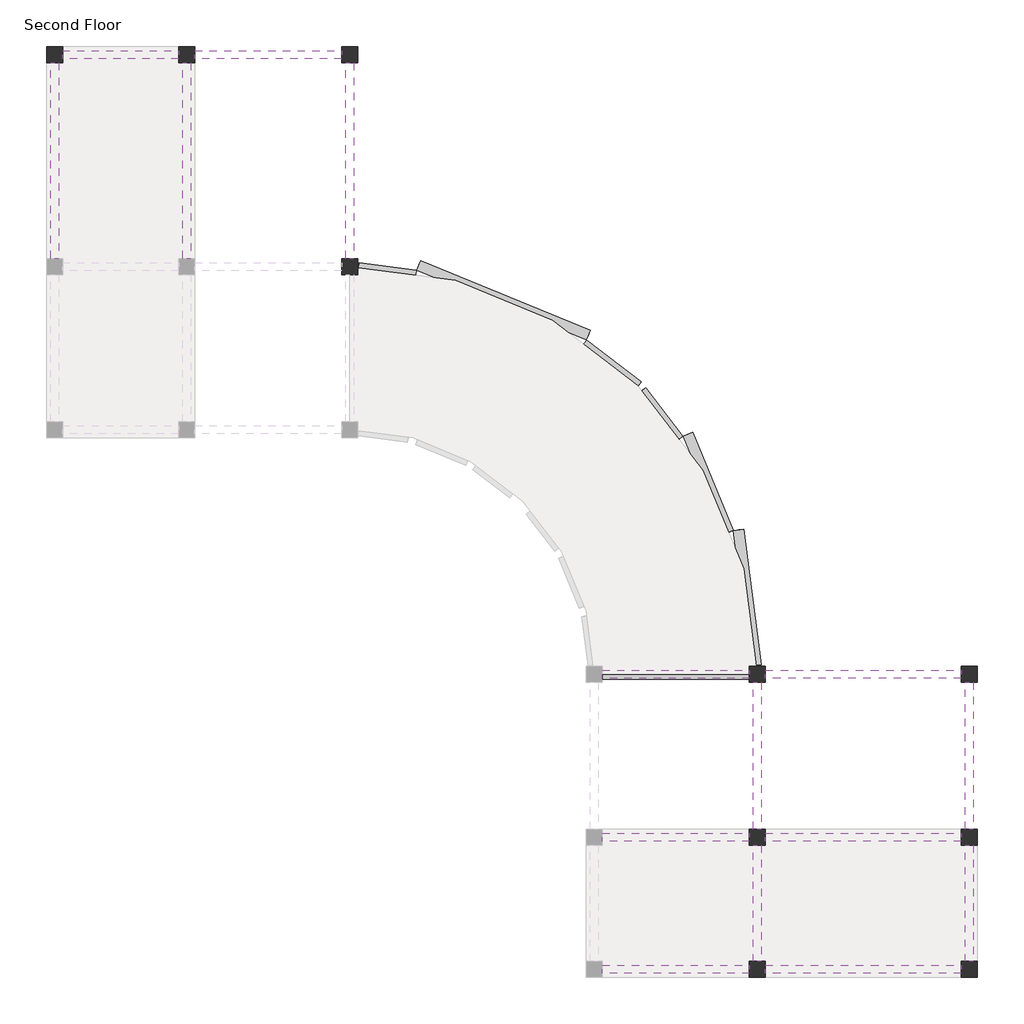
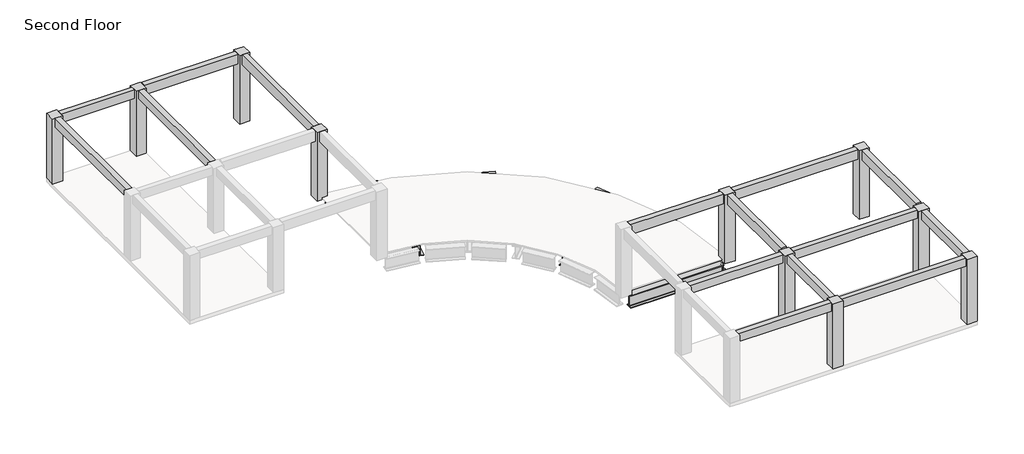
# One storey, part 2 of 2: 26 beams, 20 columns.
"""IFC4 building model written with IfcOpenShell, lengths in millimetres."""

import ifcopenshell
import ifcopenshell.guid

model = None  # the IFC model being written
_history = None  # IfcOwnerHistory: only IFC2X3 demands one
_inside = {}  # id of a spatial element -> (the spatial element, [elements in it])
_under = {}  # id of a project, library or spatial element -> (it, [spatial elements below it])
_declared = {}  # id of a project -> (the project, [libraries it declares])
_typed = {}  # id of a type object -> (the type object, [elements of that type])
_made_of = {}  # id of a material, layer set ... -> (it, [elements and type objects made of it])


def new_model(schema):
    """Start an empty IFC model of exactly this schema.

    Asked for "IFC4X3", IfcOpenShell would pick the latest addendum, in which some entities
    have other attributes; the version numbers below select the first issue.
    IFC2X3 requires an IfcOwnerHistory on every rooted entity: one is made here for all.
    """
    global model, _history
    if schema == "IFC4X3":
        model = ifcopenshell.file(schema_version=(4, 3, 0, 0))
    else:
        model = ifcopenshell.file(schema=schema)
    _inside.clear()
    _under.clear()
    _declared.clear()
    _typed.clear()
    _made_of.clear()
    _history = None
    if model.schema == "IFC2X3":
        org = make("IfcOrganization", Name="unknown")
        user = make(
            "IfcPersonAndOrganization",
            ThePerson=make("IfcPerson", FamilyName="unknown"),
            TheOrganization=org,
        )
        app = make(
            "IfcApplication",
            ApplicationDeveloper=org,
            Version="unknown",
            ApplicationFullName="unknown",
            ApplicationIdentifier="unknown",
        )
        _history = make(
            "IfcOwnerHistory",
            OwningUser=user,
            OwningApplication=app,
            ChangeAction="ADDED",
            CreationDate=0,
        )
    return model


def make(cls, **values):
    """One entity of the class cls with the attributes given. An attribute that is None is left unset."""
    return model.create_entity(
        cls, **{name: value for name, value in values.items() if value is not None}
    )


def rooted(cls, **values):
    """An entity with a GlobalId (a new one), such as an element, a storey or a relation."""
    return make(cls, GlobalId=ifcopenshell.guid.new(), OwnerHistory=_history, **values)


def si_unit(unit_type, name, prefix=None):
    """IfcSIUnit, for example si_unit("LENGTHUNIT", "METRE", prefix="MILLI")."""
    return make("IfcSIUnit", UnitType=unit_type, Prefix=prefix, Name=name)


def assignment(units):
    """IfcUnitAssignment: the units of a project."""
    return None if units is None else make("IfcUnitAssignment", Units=units)


def point(xyz):
    """IfcCartesianPoint."""
    return None if xyz is None else make("IfcCartesianPoint", Coordinates=xyz)


def direction(xyz):
    """IfcDirection."""
    return None if xyz is None else make("IfcDirection", DirectionRatios=xyz)


def frame(location, z_axis=None, x_axis=None):
    """IfcAxis2Placement3D, a coordinate frame: its origin and axes. An axis left out is left unset."""
    return make(
        "IfcAxis2Placement3D",
        Location=point(location),
        Axis=direction(z_axis),
        RefDirection=direction(x_axis),
    )


def frame_2d(location, x_axis=None):
    """IfcAxis2Placement2D, a coordinate frame in the plane: its origin and x axis."""
    return make(
        "IfcAxis2Placement2D", Location=point(location), RefDirection=direction(x_axis)
    )


def origin():
    """The frame at (0, 0, 0) with its axes left unset."""
    return frame((0.0, 0.0, 0.0))


def place(relative_to, where):
    """IfcLocalPlacement: puts the frame where relative to a parent placement (None: the world)."""
    return make(
        "IfcLocalPlacement", PlacementRelTo=relative_to, RelativePlacement=where
    )


def context(
    kind, dimensions, precision=None, world=None, true_north=None, identifier=None
):
    """IfcGeometricRepresentationContext, for example the 3D "Model" context."""
    return make(
        "IfcGeometricRepresentationContext",
        ContextIdentifier=identifier,
        ContextType=kind,
        CoordinateSpaceDimension=dimensions,
        Precision=precision,
        WorldCoordinateSystem=world,
        TrueNorth=true_north,
    )


def project(units=None, contexts=None):
    """IfcProject with its units and contexts."""
    return rooted(
        "IfcProject",
        Name="project",
        RepresentationContexts=contexts,
        UnitsInContext=assignment(units),
    )


def spatial(cls, under=None, at=None, **own):
    """A site, building, storey or space (cls), placed at a placement, below another one or the project."""
    s = rooted(cls, ObjectPlacement=at, **own)
    if under is not None:
        _under.setdefault(under.id(), (under, []))[1].append(s)
    return s


def polyline(points):
    """IfcPolyline through the points."""
    return make("IfcPolyline", Points=[point(p) for p in points])


def circle_curve(where, radius):
    """IfcCircle in the frame where."""
    return make("IfcCircle", Position=where, Radius=radius)


def trimmed(basis, trim1, trim2, sense, master):
    """IfcTrimmedCurve: the piece of a basis curve between two trims."""
    return make(
        "IfcTrimmedCurve",
        BasisCurve=basis,
        Trim1=trim1,
        Trim2=trim2,
        SenseAgreement=sense,
        MasterRepresentation=master,
    )


def segment(curve, same_sense, transition):
    """IfcCompositeCurveSegment."""
    return make(
        "IfcCompositeCurveSegment",
        Transition=transition,
        SameSense=same_sense,
        ParentCurve=curve,
    )


def composite_curve(segments, self_intersect=None):
    """IfcCompositeCurve: segments joined end to end."""
    return make("IfcCompositeCurve", Segments=segments, SelfIntersect=self_intersect)


def outline(outer, holes=None, kind="AREA"):
    """IfcArbitraryClosedProfileDef: a profile drawn as a closed curve; with holes, ...WithVoids."""
    if holes is None:
        return make("IfcArbitraryClosedProfileDef", ProfileType=kind, OuterCurve=outer)
    return make(
        "IfcArbitraryProfileDefWithVoids",
        ProfileType=kind,
        OuterCurve=outer,
        InnerCurves=holes,
    )


def extrude(swept, where, along, depth):
    """IfcExtrudedAreaSolid: the profile swept, set in the frame where, extruded along a direction by depth."""
    return make(
        "IfcExtrudedAreaSolid",
        SweptArea=swept,
        Position=where,
        ExtrudedDirection=direction(along),
        Depth=depth,
    )


def faces_of(points, faces, orient=None, outer=None):
    """IfcFace entities. A face is a list of loops; a loop is a list of indices into points, from 0.

    orient and outer hold one flag for each loop. By default every Orientation is true, the
    first loop of a face is its IfcFaceOuterBound and the others are IfcFaceBound.
    """
    made = []
    for i, loops in enumerate(faces):
        bounds = []
        for j, loop in enumerate(loops):
            is_outer = j == 0 if outer is None else outer[i][j]
            bounds.append(
                make(
                    "IfcFaceOuterBound" if is_outer else "IfcFaceBound",
                    Bound=make("IfcPolyLoop", Polygon=[points[k] for k in loop]),
                    Orientation=True if orient is None else orient[i][j],
                )
            )
        made.append(make("IfcFace", Bounds=bounds))
    return made


def faceted_brep(points, faces, orient=None, outer=None, voids=None):
    """IfcFacetedBrep: a solid bounded by flat faces; with voids (closed shells), ...WithVoids."""
    shared = [point(p) for p in points]
    hull = make("IfcClosedShell", CfsFaces=faces_of(shared, faces, orient, outer))
    if voids is None:
        return make("IfcFacetedBrep", Outer=hull)
    return make(
        "IfcFacetedBrepWithVoids",
        Outer=hull,
        Voids=[
            make(cls, CfsFaces=faces_of(shared, fs, o, b)) for cls, fs, o, b in voids
        ],
    )


def shape(context_of_items, identifier, shape_type, items):
    """IfcShapeRepresentation: the items that make up one representation, for example the "Body"."""
    return make(
        "IfcShapeRepresentation",
        ContextOfItems=context_of_items,
        RepresentationIdentifier=identifier,
        RepresentationType=shape_type,
        Items=items,
    )


def source(mapping_origin, context_of_items, identifier, shape_type, items):
    """IfcRepresentationMap: a shape defined once, which mapped items show again and again."""
    return make(
        "IfcRepresentationMap",
        MappingOrigin=mapping_origin,
        MappedRepresentation=shape(context_of_items, identifier, shape_type, items),
    )


def transform(
    local_origin,
    x_axis=None,
    y_axis=None,
    z_axis=None,
    scale=None,
    scale2=None,
    scale3=None,
    uniform=True,
):
    """IfcCartesianTransformationOperator3D, or its non-uniform kind. x_axis, y_axis, z_axis: its Axis1, 2, 3."""
    if uniform:
        return make(
            "IfcCartesianTransformationOperator3D",
            Axis1=direction(x_axis),
            Axis2=direction(y_axis),
            LocalOrigin=point(local_origin),
            Scale=scale,
            Axis3=direction(z_axis),
        )
    return make(
        "IfcCartesianTransformationOperator3DnonUniform",
        Axis1=direction(x_axis),
        Axis2=direction(y_axis),
        LocalOrigin=point(local_origin),
        Scale=scale,
        Axis3=direction(z_axis),
        Scale2=scale2,
        Scale3=scale3,
    )


def mapped(mapping_source, mapping_target):
    """IfcMappedItem: shows the shape of a source again, moved by a transform."""
    return make(
        "IfcMappedItem", MappingSource=mapping_source, MappingTarget=mapping_target
    )


def made_of(thing, what):
    """Note that an element or type object is made of a material, layer set ...; save() writes the relation."""
    if what is not None:
        _made_of.setdefault(what.id(), (what, []))[1].append(thing)
    return thing


def element(
    cls,
    number,
    at=None,
    inside=None,
    cuts=None,
    type_object=None,
    material=None,
    context=None,
    identifier="Body",
    shape_type=None,
    held_by="IfcProductDefinitionShape",
    body=None,
    shapes=None,
    **own,
):
    """One element of the class cls, such as IfcWall. Its Tag is "e" and its number.

    at: its placement. inside: the storey or other place that contains it. cuts: it is an
    opening in that element (IfcRelVoidsElement). A single representation is given by context,
    identifier, shape_type and body (its items); several are given by shapes. held_by: the class
    of the entity that holds the representations. save() writes the other relations.
    """
    e = rooted(cls, Tag="e%d" % number, ObjectPlacement=at, **own)
    if body is not None:
        shapes = [shape(context, identifier, shape_type, body)]
    if shapes is not None:
        e.Representation = make(held_by, Representations=shapes)
    if inside is not None:
        _inside.setdefault(inside.id(), (inside, []))[1].append(e)
    if cuts is not None:
        rooted(
            "IfcRelVoidsElement", RelatingBuildingElement=cuts, RelatedOpeningElement=e
        )
    if type_object is not None:
        _typed.setdefault(type_object.id(), (type_object, []))[1].append(e)
    return made_of(e, material)


def aggregate(whole, parts):
    """IfcRelAggregates: a whole, such as a stair, and the parts it consists of."""
    return rooted("IfcRelAggregates", RelatingObject=whole, RelatedObjects=parts)


def save(model, path):
    """Write the relations noted so far, then the file.

    IfcRelAggregates (storeys below a building ...), IfcRelContainedInSpatialStructure (elements
    in a storey), IfcRelDefinesByType, IfcRelAssociatesMaterial and IfcRelDeclares: one each for
    every whole, place, type object, material and project.
    """
    for whole, parts in _under.values():
        aggregate(whole, parts)
    for where, things in _inside.values():
        rooted(
            "IfcRelContainedInSpatialStructure",
            RelatedElements=things,
            RelatingStructure=where,
        )
    for kind, things in _typed.values():
        rooted("IfcRelDefinesByType", RelatedObjects=things, RelatingType=kind)
    for what, things in _made_of.values():
        rooted("IfcRelAssociatesMaterial", RelatedObjects=things, RelatingMaterial=what)
    for by, libraries in _declared.values():
        rooted("IfcRelDeclares", RelatingContext=by, RelatedDefinitions=libraries)
    model.write(path)


def w760x350_97f56e91(model_context):
    return source(origin(), model_context, "Body", "SweptSolid", [
        extrude(outline(composite_curve([segment(polyline([(192.0, -359.4), (192.0, -397.5), (-192.0, -397.5), (-192.0, -359.4), (-32.75, -359.4)]), True, "CONTINUOUS"), segment(trimmed(circle_curve(frame_2d((-32.75, -337.2)), 22.2), [point((-32.75, -359.4))], [point((-10.55, -337.2))], True, "CARTESIAN"), True, "CONTINUOUS"), segment(polyline([(-10.55, -337.2), (-10.55, 337.2)]), True, "CONTINUOUS"), segment(trimmed(circle_curve(frame_2d((-32.75, 337.2)), 22.2), [point((-10.55, 337.2))], [point((-32.75, 359.4))], True, "CARTESIAN"), True, "CONTINUOUS"), segment(polyline([(-32.75, 359.4), (-192.0, 359.4), (-192.0, 397.5), (192.0, 397.5), (192.0, 359.4), (32.75, 359.4)]), True, "CONTINUOUS"), segment(trimmed(circle_curve(frame_2d((32.75, 337.2)), 22.2), [point((32.75, 359.4))], [point((10.55, 337.2))], True, "CARTESIAN"), True, "CONTINUOUS"), segment(polyline([(10.55, 337.2), (10.55, -337.2)]), True, "CONTINUOUS"), segment(trimmed(circle_curve(frame_2d((32.75, -337.2)), 22.2), [point((10.55, -337.2))], [point((32.75, -359.4))], True, "CARTESIAN"), True, "CONTINUOUS"), segment(polyline([(32.75, -359.4), (192.0, -359.4)]), True, "CONTINUOUS")], self_intersect=False)), frame((-3447.6039591, 0.0, 0.0), z_axis=(1.0, 0.0, 0.0), x_axis=(0.0, 1.0, 0.0)), (0.0, 0.0, 1.0), 3965.7383389),
    ])


def w760x350_76114712(model_context):
    return source(origin(), model_context, "Body", "SweptSolid", [
        extrude(outline(composite_curve([segment(polyline([(192.0, -359.4), (192.0, -397.5), (-192.0, -397.5), (-192.0, -359.4), (-32.75, -359.4)]), True, "CONTINUOUS"), segment(trimmed(circle_curve(frame_2d((-32.75, -337.2)), 22.2), [point((-32.75, -359.4))], [point((-10.55, -337.2))], True, "CARTESIAN"), True, "CONTINUOUS"), segment(polyline([(-10.55, -337.2), (-10.55, 337.2)]), True, "CONTINUOUS"), segment(trimmed(circle_curve(frame_2d((-32.75, 337.2)), 22.2), [point((-10.55, 337.2))], [point((-32.75, 359.4))], True, "CARTESIAN"), True, "CONTINUOUS"), segment(polyline([(-32.75, 359.4), (-192.0, 359.4), (-192.0, 397.5), (192.0, 397.5), (192.0, 359.4), (32.75, 359.4)]), True, "CONTINUOUS"), segment(trimmed(circle_curve(frame_2d((32.75, 337.2)), 22.2), [point((32.75, 359.4))], [point((10.55, 337.2))], True, "CARTESIAN"), True, "CONTINUOUS"), segment(polyline([(10.55, 337.2), (10.55, -337.2)]), True, "CONTINUOUS"), segment(trimmed(circle_curve(frame_2d((32.75, -337.2)), 22.2), [point((10.55, -337.2))], [point((32.75, -359.4))], True, "CARTESIAN"), True, "CONTINUOUS"), segment(polyline([(32.75, -359.4), (192.0, -359.4)]), True, "CONTINUOUS")], self_intersect=False)), frame((-1757.5851295, 0.0, 0.0), z_axis=(1.0, 0.0, 0.0), x_axis=(0.0, 1.0, 0.0)), (0.0, 0.0, 1.0), 2275.7195093),
    ])


def w760x350_95a3d9c9(model_context):
    return source(origin(), model_context, "Body", "SweptSolid", [
        extrude(outline(composite_curve([segment(polyline([(192.0, -359.4), (192.0, -397.5), (-192.0, -397.5), (-192.0, -359.4), (-32.75, -359.4)]), True, "CONTINUOUS"), segment(trimmed(circle_curve(frame_2d((-32.75, -337.2)), 22.2), [point((-32.75, -359.4))], [point((-10.55, -337.2))], True, "CARTESIAN"), True, "CONTINUOUS"), segment(polyline([(-10.55, -337.2), (-10.55, 337.2)]), True, "CONTINUOUS"), segment(trimmed(circle_curve(frame_2d((-32.75, 337.2)), 22.2), [point((-10.55, 337.2))], [point((-32.75, 359.4))], True, "CARTESIAN"), True, "CONTINUOUS"), segment(polyline([(-32.75, 359.4), (-192.0, 359.4), (-192.0, 397.5), (192.0, 397.5), (192.0, 359.4), (32.75, 359.4)]), True, "CONTINUOUS"), segment(trimmed(circle_curve(frame_2d((32.75, 337.2)), 22.2), [point((32.75, 359.4))], [point((10.55, 337.2))], True, "CARTESIAN"), True, "CONTINUOUS"), segment(polyline([(10.55, 337.2), (10.55, -337.2)]), True, "CONTINUOUS"), segment(trimmed(circle_curve(frame_2d((32.75, -337.2)), 22.2), [point((10.55, -337.2))], [point((32.75, -359.4))], True, "CARTESIAN"), True, "CONTINUOUS"), segment(polyline([(32.75, -359.4), (192.0, -359.4)]), True, "CONTINUOUS")], self_intersect=False)), frame((-1648.6532017, 0.0, 0.0), z_axis=(1.0, 0.0, 0.0), x_axis=(0.0, 1.0, 0.0)), (0.0, 0.0, 1.0), 2147.5829882),
    ])


def w760x350_c93c339d(model_context):
    return source(origin(), model_context, "Body", "SweptSolid", [
        extrude(outline(composite_curve([segment(polyline([(192.0, -359.4), (192.0, -397.5), (-192.0, -397.5), (-192.0, -359.4), (-32.75, -359.4)]), True, "CONTINUOUS"), segment(trimmed(circle_curve(frame_2d((-32.75, -337.2)), 22.2), [point((-32.75, -359.4))], [point((-10.55, -337.2))], True, "CARTESIAN"), True, "CONTINUOUS"), segment(polyline([(-10.55, -337.2), (-10.55, 337.2)]), True, "CONTINUOUS"), segment(trimmed(circle_curve(frame_2d((-32.75, 337.2)), 22.2), [point((-10.55, 337.2))], [point((-32.75, 359.4))], True, "CARTESIAN"), True, "CONTINUOUS"), segment(polyline([(-32.75, 359.4), (-192.0, 359.4), (-192.0, 397.5), (192.0, 397.5), (192.0, 359.4), (32.75, 359.4)]), True, "CONTINUOUS"), segment(trimmed(circle_curve(frame_2d((32.75, 337.2)), 22.2), [point((32.75, 359.4))], [point((10.55, 337.2))], True, "CARTESIAN"), True, "CONTINUOUS"), segment(polyline([(10.55, 337.2), (10.55, -337.2)]), True, "CONTINUOUS"), segment(trimmed(circle_curve(frame_2d((32.75, -337.2)), 22.2), [point((10.55, -337.2))], [point((32.75, -359.4))], True, "CARTESIAN"), True, "CONTINUOUS"), segment(polyline([(32.75, -359.4), (192.0, -359.4)]), True, "CONTINUOUS")], self_intersect=False)), frame((-3436.6555898, 0.0, 0.0), z_axis=(1.0, 0.0, 0.0), x_axis=(0.0, 1.0, 0.0)), (0.0, 0.0, 1.0), 6854.1065863),
    ])


def w760x350_c870c244(model_context):
    return source(origin(), model_context, "Body", "SweptSolid", [
        extrude(outline(composite_curve([segment(polyline([(192.0, -359.4), (192.0, -397.5), (-192.0, -397.5), (-192.0, -359.4), (-32.75, -359.4)]), True, "CONTINUOUS"), segment(trimmed(circle_curve(frame_2d((-32.75, -337.2)), 22.2), [point((-32.75, -359.4))], [point((-10.55, -337.2))], True, "CARTESIAN"), True, "CONTINUOUS"), segment(polyline([(-10.55, -337.2), (-10.55, 337.2)]), True, "CONTINUOUS"), segment(trimmed(circle_curve(frame_2d((-32.75, 337.2)), 22.2), [point((-10.55, 337.2))], [point((-32.75, 359.4))], True, "CARTESIAN"), True, "CONTINUOUS"), segment(polyline([(-32.75, 359.4), (-192.0, 359.4), (-192.0, 397.5), (192.0, 397.5), (192.0, 359.4), (32.75, 359.4)]), True, "CONTINUOUS"), segment(trimmed(circle_curve(frame_2d((32.75, 337.2)), 22.2), [point((32.75, 359.4))], [point((10.55, 337.2))], True, "CARTESIAN"), True, "CONTINUOUS"), segment(polyline([(10.55, 337.2), (10.55, -337.2)]), True, "CONTINUOUS"), segment(trimmed(circle_curve(frame_2d((32.75, -337.2)), 22.2), [point((10.55, -337.2))], [point((32.75, -359.4))], True, "CARTESIAN"), True, "CONTINUOUS"), segment(polyline([(32.75, -359.4), (192.0, -359.4)]), True, "CONTINUOUS")], self_intersect=False)), frame((-548.9152104, 0.0, 0.0), z_axis=(1.0, 0.0, 0.0), x_axis=(0.0, 1.0, 0.0)), (0.0, 0.0, 1.0), 2568.9152104),
    ])


def w760x350_85be410d(model_context):
    return source(origin(), model_context, "Body", "SweptSolid", [
        extrude(outline(composite_curve([segment(polyline([(192.0, -359.4), (192.0, -397.5), (-192.0, -397.5), (-192.0, -359.4), (-32.75, -359.4)]), True, "CONTINUOUS"), segment(trimmed(circle_curve(frame_2d((-32.75, -337.2)), 22.2), [point((-32.75, -359.4))], [point((-10.55, -337.2))], True, "CARTESIAN"), True, "CONTINUOUS"), segment(polyline([(-10.55, -337.2), (-10.55, 337.2)]), True, "CONTINUOUS"), segment(trimmed(circle_curve(frame_2d((-32.75, 337.2)), 22.2), [point((-10.55, 337.2))], [point((-32.75, 359.4))], True, "CARTESIAN"), True, "CONTINUOUS"), segment(polyline([(-32.75, 359.4), (-192.0, 359.4), (-192.0, 397.5), (192.0, 397.5), (192.0, 359.4), (32.75, 359.4)]), True, "CONTINUOUS"), segment(trimmed(circle_curve(frame_2d((32.75, 337.2)), 22.2), [point((32.75, 359.4))], [point((10.55, 337.2))], True, "CARTESIAN"), True, "CONTINUOUS"), segment(polyline([(10.55, 337.2), (10.55, -337.2)]), True, "CONTINUOUS"), segment(trimmed(circle_curve(frame_2d((32.75, -337.2)), 22.2), [point((10.55, -337.2))], [point((32.75, -359.4))], True, "CARTESIAN"), True, "CONTINUOUS"), segment(polyline([(32.75, -359.4), (192.0, -359.4)]), True, "CONTINUOUS")], self_intersect=False)), frame((-2605.8, 0.0, 0.0), z_axis=(1.0, 0.0, 0.0), x_axis=(0.0, 1.0, 0.0)), (0.0, 0.0, 1.0), 5422.16596),
    ])


def w760x350_f2c5e80b(model_context):
    return source(origin(), model_context, "Body", "SweptSolid", [
        extrude(outline(composite_curve([segment(polyline([(192.0, -359.4), (192.0, -397.5), (-192.0, -397.5), (-192.0, -359.4), (-32.75, -359.4)]), True, "CONTINUOUS"), segment(trimmed(circle_curve(frame_2d((-32.75, -337.2)), 22.2), [point((-32.75, -359.4))], [point((-10.55, -337.2))], True, "CARTESIAN"), True, "CONTINUOUS"), segment(polyline([(-10.55, -337.2), (-10.55, 337.2)]), True, "CONTINUOUS"), segment(trimmed(circle_curve(frame_2d((-32.75, 337.2)), 22.2), [point((-10.55, 337.2))], [point((-32.75, 359.4))], True, "CARTESIAN"), True, "CONTINUOUS"), segment(polyline([(-32.75, 359.4), (-192.0, 359.4), (-192.0, 397.5), (192.0, 397.5), (192.0, 359.4), (32.75, 359.4)]), True, "CONTINUOUS"), segment(trimmed(circle_curve(frame_2d((32.75, 337.2)), 22.2), [point((32.75, 359.4))], [point((10.55, 337.2))], True, "CARTESIAN"), True, "CONTINUOUS"), segment(polyline([(10.55, 337.2), (10.55, -337.2)]), True, "CONTINUOUS"), segment(trimmed(circle_curve(frame_2d((32.75, -337.2)), 22.2), [point((10.55, -337.2))], [point((32.75, -359.4))], True, "CARTESIAN"), True, "CONTINUOUS"), segment(polyline([(32.75, -359.4), (192.0, -359.4)]), True, "CONTINUOUS")], self_intersect=False)), frame((-3447.6039591, 0.0, 0.0), z_axis=(1.0, 0.0, 0.0), x_axis=(0.0, 1.0, 0.0)), (0.0, 0.0, 1.0), 5096.2571608),
    ])


def w760x350_2a258063(model_context):
    return source(origin(), model_context, "Body", "SweptSolid", [
        extrude(outline(composite_curve([segment(polyline([(192.0, -359.4), (192.0, -397.5), (-192.0, -397.5), (-192.0, -359.4), (-32.75, -359.4)]), True, "CONTINUOUS"), segment(trimmed(circle_curve(frame_2d((-32.75, -337.2)), 22.2), [point((-32.75, -359.4))], [point((-10.55, -337.2))], True, "CARTESIAN"), True, "CONTINUOUS"), segment(polyline([(-10.55, -337.2), (-10.55, 337.2)]), True, "CONTINUOUS"), segment(trimmed(circle_curve(frame_2d((-32.75, 337.2)), 22.2), [point((-10.55, 337.2))], [point((-32.75, 359.4))], True, "CARTESIAN"), True, "CONTINUOUS"), segment(polyline([(-32.75, 359.4), (-192.0, 359.4), (-192.0, 397.5), (192.0, 397.5), (192.0, 359.4), (32.75, 359.4)]), True, "CONTINUOUS"), segment(trimmed(circle_curve(frame_2d((32.75, 337.2)), 22.2), [point((32.75, 359.4))], [point((10.55, 337.2))], True, "CARTESIAN"), True, "CONTINUOUS"), segment(polyline([(10.55, 337.2), (10.55, -337.2)]), True, "CONTINUOUS"), segment(trimmed(circle_curve(frame_2d((32.75, -337.2)), 22.2), [point((10.55, -337.2))], [point((32.75, -359.4))], True, "CARTESIAN"), True, "CONTINUOUS"), segment(polyline([(32.75, -359.4), (192.0, -359.4)]), True, "CONTINUOUS")], self_intersect=False)), frame((-2735.3, 0.0, 0.0), z_axis=(1.0, 0.0, 0.0), x_axis=(0.0, 1.0, 0.0)), (0.0, 0.0, 1.0), 5470.6),
    ])


def w760x350_6f162b3c(model_context):
    return source(origin(), model_context, "Body", "SweptSolid", [
        extrude(outline(composite_curve([segment(polyline([(192.0, -359.4), (192.0, -397.5), (-192.0, -397.5), (-192.0, -359.4), (-32.75, -359.4)]), True, "CONTINUOUS"), segment(trimmed(circle_curve(frame_2d((-32.75, -337.2)), 22.2), [point((-32.75, -359.4))], [point((-10.55, -337.2))], True, "CARTESIAN"), True, "CONTINUOUS"), segment(polyline([(-10.55, -337.2), (-10.55, 337.2)]), True, "CONTINUOUS"), segment(trimmed(circle_curve(frame_2d((-32.75, 337.2)), 22.2), [point((-10.55, 337.2))], [point((-32.75, 359.4))], True, "CARTESIAN"), True, "CONTINUOUS"), segment(polyline([(-32.75, 359.4), (-192.0, 359.4), (-192.0, 397.5), (192.0, 397.5), (192.0, 359.4), (32.75, 359.4)]), True, "CONTINUOUS"), segment(trimmed(circle_curve(frame_2d((32.75, 337.2)), 22.2), [point((32.75, 359.4))], [point((10.55, 337.2))], True, "CARTESIAN"), True, "CONTINUOUS"), segment(polyline([(10.55, 337.2), (10.55, -337.2)]), True, "CONTINUOUS"), segment(trimmed(circle_curve(frame_2d((32.75, -337.2)), 22.2), [point((10.55, -337.2))], [point((32.75, -359.4))], True, "CARTESIAN"), True, "CONTINUOUS"), segment(polyline([(32.75, -359.4), (192.0, -359.4)]), True, "CONTINUOUS")], self_intersect=False)), frame((-37.2999994, 0.0, 0.0), z_axis=(1.0, 0.0, 0.0), x_axis=(0.0, 1.0, 0.0)), (0.0, 0.0, 1.0), 74.5999988),
    ])


model = new_model("IFC4")

# Units and contexts
model_context = context("Model", 3, world=origin())
ifc_project = project(units=[si_unit("LENGTHUNIT", "METRE", prefix="MILLI")], contexts=[model_context])

# Site, building, storey
site = spatial("IfcSite", under=ifc_project)
building = spatial("IfcBuilding", under=site)
storey = spatial("IfcBuildingStorey", under=building, Name="Second Floor", Elevation=3048.0)

# Beams
placement = place(None, origin())
element("IfcBeam", 1, ObjectType="M_Concrete-Rectangular Beam : 300 x 600mm", at=placement, inside=storey, context=model_context, shape_type="SweptSolid", body=[
    extrude(outline(polyline([(-16304.9035319, 4112.1636035), (-16304.9035319, 4412.1636035), (-10808.9035319, 4412.1636035), (-10808.9035319, 4112.1636035), (-16304.9035319, 4112.1636035)])), frame((0.0, 0.0, 6715.0), z_axis=(0.0, 0.0, 1.0), x_axis=(1.0, 0.0, 0.0)), (0.0, 0.0, 1.0), 600.0),
])
element("IfcBeam", 2, ObjectType="M_Concrete-Rectangular Beam : 300 x 600mm", at=placement, inside=storey, context=model_context, shape_type="SweptSolid", body=[
    extrude(outline(polyline([(-21244.300634, 4112.1636035), (-21244.300634, 4412.1636035), (-16904.9035319, 4412.1636035), (-16904.9035319, 4112.1636035), (-21244.300634, 4112.1636035)])), frame((0.0, 0.0, 6715.0), z_axis=(0.0, 0.0, 1.0), x_axis=(1.0, 0.0, 0.0)), (0.0, 0.0, 1.0), 510.0),
])
element("IfcBeam", 3, ObjectType="M_Concrete-Rectangular Beam : 300 x 600mm", at=placement, inside=storey, context=model_context, shape_type="SweptSolid", body=[
    extrude(outline(polyline([(-21394.300634, -3362.8363965), (-21694.300634, -3362.8363965), (-21694.300634, 3962.1636035), (-21394.300634, 3962.1636035), (-21394.300634, -3362.8363965)])), frame((0.0, 0.0, 6715.0), z_axis=(0.0, 0.0, 1.0), x_axis=(1.0, 0.0, 0.0)), (0.0, 0.0, 1.0), 510.0),
])
element("IfcBeam", 4, ObjectType="M_Concrete-Rectangular Beam : 300 x 600mm", at=placement, inside=storey, context=model_context, shape_type="SweptSolid", body=[
    extrude(outline(polyline([(-16454.9035319, -3362.8363965), (-16754.9035319, -3362.8363965), (-16754.9035319, 3962.1636035), (-16454.9035319, 3962.1636035), (-16454.9035319, -3362.8363965)])), frame((0.0, 0.0, 6715.0), z_axis=(0.0, 0.0, 1.0), x_axis=(1.0, 0.0, 0.0)), (0.0, 0.0, 1.0), 510.0),
])
element("IfcBeam", 5, ObjectType="M_Concrete-Rectangular Beam : 300 x 600mm", at=placement, inside=storey, context=model_context, shape_type="SweptSolid", body=[
    extrude(outline(polyline([(-10358.9035319, -3362.8363965), (-10658.9035319, -3362.8363965), (-10658.9035319, 3962.1636035), (-10358.9035319, 3962.1636035), (-10358.9035319, -3362.8363965)])), frame((0.0, 0.0, 6715.0), z_axis=(0.0, 0.0, 1.0), x_axis=(1.0, 0.0, 0.0)), (0.0, 0.0, 1.0), 600.0),
])
element("IfcBeam", 6, ObjectType="M_Concrete-Rectangular Beam : 300 x 600mm", at=placement, inside=storey, context=model_context, shape_type="SweptSolid", body=[
    extrude(outline(polyline([(12806.0964681, -24698.8363965), (12506.0964681, -24698.8363965), (12506.0964681, -19202.8363965), (12806.0964681, -19202.8363965), (12806.0964681, -24698.8363965)])), frame((0.0, 0.0, 6715.0), z_axis=(0.0, 0.0, 1.0), x_axis=(1.0, 0.0, 0.0)), (0.0, 0.0, 1.0), 600.0),
])
element("IfcBeam", 7, ObjectType="M_Concrete-Rectangular Beam : 300 x 600mm", at=placement, inside=storey, context=model_context, shape_type="SweptSolid", body=[
    extrude(outline(polyline([(12806.0964681, -29638.2334986), (12506.0964681, -29638.2334986), (12506.0964681, -25298.8363965), (12806.0964681, -25298.8363965), (12806.0964681, -29638.2334986)])), frame((0.0, 0.0, 6715.0), z_axis=(0.0, 0.0, 1.0), x_axis=(1.0, 0.0, 0.0)), (0.0, 0.0, 1.0), 510.0),
])
element("IfcBeam", 8, ObjectType="M_Concrete-Rectangular Beam : 300 x 600mm", at=placement, inside=storey, context=model_context, shape_type="SweptSolid", body=[
    extrude(outline(polyline([(4881.0964681, -24698.8363965), (4581.0964681, -24698.8363965), (4581.0964681, -19202.8363965), (4881.0964681, -19202.8363965), (4881.0964681, -24698.8363965)])), frame((0.0, 0.0, 6715.0), z_axis=(0.0, 0.0, 1.0), x_axis=(1.0, 0.0, 0.0)), (0.0, 0.0, 1.0), 600.0),
])
element("IfcBeam", 9, ObjectType="M_Concrete-Rectangular Beam : 300 x 600mm", at=placement, inside=storey, context=model_context, shape_type="SweptSolid", body=[
    extrude(outline(polyline([(4881.0964681, -29638.2334986), (4581.0964681, -29638.2334986), (4581.0964681, -25298.8363965), (4881.0964681, -25298.8363965), (4881.0964681, -29638.2334986)])), frame((0.0, 0.0, 6715.0), z_axis=(0.0, 0.0, 1.0), x_axis=(1.0, 0.0, 0.0)), (0.0, 0.0, 1.0), 510.0),
])
element("IfcBeam", 10, ObjectType="M_Concrete-Rectangular Beam : 300 x 600mm", at=placement, inside=storey, context=model_context, shape_type="SweptSolid", body=[
    extrude(outline(polyline([(5031.0964681, -30088.2334986), (5031.0964681, -29788.2334986), (12356.0964681, -29788.2334986), (12356.0964681, -30088.2334986), (5031.0964681, -30088.2334986)])), frame((0.0, 0.0, 6715.0), z_axis=(0.0, 0.0, 1.0), x_axis=(1.0, 0.0, 0.0)), (0.0, 0.0, 1.0), 510.0),
])
element("IfcBeam", 11, ObjectType="M_Concrete-Rectangular Beam : 300 x 600mm", at=placement, inside=storey, context=model_context, shape_type="SweptSolid", body=[
    extrude(outline(polyline([(-1064.9035319, -30088.2334986), (-1064.9035319, -29788.2334986), (4431.0964681, -29788.2334986), (4431.0964681, -30088.2334986), (-1064.9035319, -30088.2334986)])), frame((0.0, 0.0, 6715.0), z_axis=(0.0, 0.0, 1.0), x_axis=(1.0, 0.0, 0.0)), (0.0, 0.0, 1.0), 510.0),
])
element("IfcBeam", 12, ObjectType="M_Concrete-Rectangular Beam : 300 x 600mm", at=placement, inside=storey, context=model_context, shape_type="SweptSolid", body=[
    extrude(outline(polyline([(-1064.9035319, -25148.8363965), (-1064.9035319, -24848.8363965), (4431.0964681, -24848.8363965), (4431.0964681, -25148.8363965), (-1064.9035319, -25148.8363965)])), frame((0.0, 0.0, 6715.0), z_axis=(0.0, 0.0, 1.0), x_axis=(1.0, 0.0, 0.0)), (0.0, 0.0, 1.0), 510.0),
])
element("IfcBeam", 13, ObjectType="M_Concrete-Rectangular Beam : 300 x 600mm", at=placement, inside=storey, context=model_context, shape_type="SweptSolid", body=[
    extrude(outline(polyline([(5031.0964681, -25148.8363965), (5031.0964681, -24848.8363965), (12356.0964681, -24848.8363965), (12356.0964681, -25148.8363965), (5031.0964681, -25148.8363965)])), frame((0.0, 0.0, 6715.0), z_axis=(0.0, 0.0, 1.0), x_axis=(1.0, 0.0, 0.0)), (0.0, 0.0, 1.0), 510.0),
])
element("IfcBeam", 14, ObjectType="M_Concrete-Rectangular Beam : 300 x 600mm", at=placement, inside=storey, context=model_context, shape_type="SweptSolid", body=[
    extrude(outline(polyline([(-1064.9035319, -19052.8363965), (-1064.9035319, -18752.8363965), (4431.0964681, -18752.8363965), (4431.0964681, -19052.8363965), (-1064.9035319, -19052.8363965)])), frame((0.0, 0.0, 6715.0), z_axis=(0.0, 0.0, 1.0), x_axis=(1.0, 0.0, 0.0)), (0.0, 0.0, 1.0), 600.0),
])
element("IfcBeam", 15, ObjectType="M_Concrete-Rectangular Beam : 300 x 600mm", at=placement, inside=storey, context=model_context, shape_type="SweptSolid", body=[
    extrude(outline(polyline([(5031.0964681, -19052.8363965), (5031.0964681, -18752.8363965), (12356.0964681, -18752.8363965), (12356.0964681, -19052.8363965), (5031.0964681, -19052.8363965)])), frame((0.0, 0.0, 6715.0), z_axis=(0.0, 0.0, 1.0), x_axis=(1.0, 0.0, 0.0)), (0.0, 0.0, 1.0), 600.0),
])
w760x350_shape = w760x350_97f56e91(model_context)
element("IfcBeam", 16, ObjectType="M_W-Wide Flange : W760X350", at=placement, inside=storey, context=model_context, shape_type="MappedRepresentation", body=[
    mapped(w760x350_shape, transform((3450.5648413, -13120.6352728, 2523.5), x_axis=(0.3826834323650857, -0.9238795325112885, 0.0), y_axis=(0.9238795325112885, 0.3826834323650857, 0.0), z_axis=(0.0, 0.0, 1.0))),
])
w760x350_2_shape = w760x350_76114712(model_context)
element("IfcBeam", 17, ObjectType="M_W-Wide Flange : W760X350", at=placement, inside=storey, context=model_context, shape_type="MappedRepresentation", body=[
    mapped(w760x350_2_shape, transform((1478.3637176, -9704.6827239, 2523.5), x_axis=(0.6087614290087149, -0.7933533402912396, 0.0), y_axis=(0.7933533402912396, 0.6087614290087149, 0.0), z_axis=(0.0, 0.0, 1.0))),
])
w760x350_3_shape = w760x350_95a3d9c9(model_context)
element("IfcBeam", 18, ObjectType="M_W-Wide Flange : W760X350", at=placement, inside=storey, context=model_context, shape_type="MappedRepresentation", body=[
    mapped(w760x350_3_shape, transform((-8536.7024082, -3922.4816002, 2523.5), x_axis=(0.9914448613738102, -0.1305261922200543, 0.0), y_axis=(0.1305261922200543, 0.9914448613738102, 0.0), z_axis=(0.0, 0.0, 1.0))),
])
w760x350_4_shape = w760x350_c93c339d(model_context)
element("IfcBeam", 19, ObjectType="M_W-Wide Flange : W760X350", at=placement, inside=storey, context=model_context, shape_type="MappedRepresentation", body=[
    mapped(w760x350_4_shape, transform((-4752.0478576, -4925.7348849, 2523.5), x_axis=(0.9251619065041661, -0.37957271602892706, 0.0), y_axis=(0.37957271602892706, 0.9251619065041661, 0.0), z_axis=(0.0, 0.0, 1.0))),
])
w760x350_5_shape = w760x350_c870c244(model_context)
element("IfcBeam", 20, ObjectType="M_W-Wide Flange : W760X350", at=placement, inside=storey, context=model_context, shape_type="MappedRepresentation", body=[
    mapped(w760x350_5_shape, transform((-1332.8922259, -6893.6419593, 2523.5), x_axis=(0.7953971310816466, -0.6060886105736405, 0.0), y_axis=(0.6060886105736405, 0.7953971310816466, 0.0), z_axis=(0.0, 0.0, 1.0))),
])
w760x350_6_shape = w760x350_85be410d(model_context)
element("IfcBeam", 21, ObjectType="M_W-Wide Flange : W760X350", at=placement, inside=storey, context=model_context, shape_type="MappedRepresentation", body=[
    mapped(w760x350_6_shape, transform((-7353.381734, -7126.2687224, 2523.5), x_axis=(0.258819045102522, 0.965925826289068, 0.0), y_axis=(-0.965925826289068, 0.258819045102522, 0.0), z_axis=(0.0, 0.0, 1.0))),
])
element("IfcBeam", 22, ObjectType="M_W-Wide Flange : W760X350", at=placement, inside=storey, context=model_context, shape_type="MappedRepresentation", body=[
    mapped(w760x350_6_shape, transform((49.6781911, -12806.8363965, 2523.5), x_axis=(0.8660254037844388, 0.49999999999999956, 0.0), y_axis=(-0.49999999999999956, 0.8660254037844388, 0.0), z_axis=(0.0, 0.0, 1.0))),
])
element("IfcBeam", 23, ObjectType="M_W-Wide Flange : W760X350", at=placement, inside=storey, context=model_context, shape_type="MappedRepresentation", body=[
    mapped(w760x350_6_shape, transform((1267.6641423, -15747.3145986, 2523.5), x_axis=(0.9659258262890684, 0.2588190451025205, 0.0), y_axis=(-0.2588190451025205, 0.9659258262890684, 0.0), z_axis=(0.0, 0.0, 1.0))),
])
w760x350_7_shape = w760x350_f2c5e80b(model_context)
element("IfcBeam", 24, ObjectType="M_W-Wide Flange : W760X350", at=placement, inside=storey, context=model_context, shape_type="MappedRepresentation", body=[
    mapped(w760x350_7_shape, transform((4471.4512645, -16930.6352728, 2523.5), x_axis=(0.1305261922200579, -0.9914448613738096, 0.0), y_axis=(0.9914448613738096, 0.1305261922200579, 0.0), z_axis=(0.0, 0.0, 1.0))),
])
w760x350_8_shape = w760x350_2a258063(model_context)
element("IfcBeam", 25, ObjectType="M_W-Wide Flange : W760X350", at=placement, inside=storey, context=model_context, shape_type="MappedRepresentation", body=[
    mapped(w760x350_8_shape, transform((1683.0964681, -18902.8363965, 2523.5), x_axis=(-1.0, 0.0, 0.0), y_axis=(0.0, -1.0, 0.0), z_axis=(0.0, 0.0, 1.0))),
])
w760x350_9_shape = w760x350_6f162b3c(model_context)
element("IfcBeam", 26, ObjectType="M_W-Wide Flange : W760X350", at=placement, inside=storey, context=model_context, shape_type="MappedRepresentation", body=[
    mapped(w760x350_9_shape, transform((-2853.5481928, -5739.9645819, 2523.5), x_axis=(0.7071067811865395, -0.7071067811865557, 0.0), y_axis=(0.7071067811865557, 0.7071067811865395, 0.0), z_axis=(0.0, 0.0, 1.0))),
])

# Columns
element("IfcColumn", 27, ObjectType="M_Concrete-Rectangular-Column : 600 x 600mm", at=placement, inside=storey, context=model_context, shape_type="SweptSolid", body=[
    extrude(outline(polyline([(-21844.300634, 3962.1636035), (-21844.300634, 4562.1636035), (-21244.300634, 4562.1636035), (-21244.300634, 3962.1636035), (-21844.300634, 3962.1636035)])), frame((0.0, 0.0, 3168.0), z_axis=(0.0, 0.0, 1.0), x_axis=(1.0, 0.0, 0.0)), (0.0, 0.0, 1.0), 4057.0),
])
element("IfcColumn", 28, ObjectType="M_Concrete-Rectangular-Column : 600 x 600mm", at=placement, inside=storey, context=model_context, shape_type="SweptSolid", body=[
    extrude(outline(polyline([(-16904.9035319, 3962.1636035), (-16904.9035319, 4562.1636035), (-16304.9035319, 4562.1636035), (-16304.9035319, 3962.1636035), (-16904.9035319, 3962.1636035)])), frame((0.0, 0.0, 3168.0), z_axis=(0.0, 0.0, 1.0), x_axis=(1.0, 0.0, 0.0)), (0.0, 0.0, 1.0), 4057.0),
])
element("IfcColumn", 29, ObjectType="M_Concrete-Rectangular-Column : 600 x 600mm", at=placement, inside=storey, context=model_context, shape_type="Brep", body=[
    faceted_brep([(-10808.9035319, -3962.8363965, 3048.0), (-10808.9035319, -3362.8363965, 3048.0), (-10208.9035319, -3362.8363965, 3048.0), (-10208.9035319, -3962.8363965, 3048.0), (-10808.9035319, -3962.8363965, 7315.0), (-10808.9035319, -3362.8363965, 7315.0), (-10208.9035319, -3362.8363965, 7315.0), (-10208.9035319, -3962.8363965, 7315.0), (-10208.9035319, -3962.8363965, 3168.0), (-10208.9035319, -3702.3321458, 3168.0), (-10208.9035319, -3702.3321458, 3093.0), (-10208.9035319, -3962.8363965, 3093.0), (-10508.9035319, -3962.8363965, 3093.0), (-10508.9035319, -3962.8363965, 3168.0), (-10508.9035319, -3662.8363965, 3093.0), (-10508.9035319, -3662.8363965, 3168.0)], [[[0, 1, 2, 3]], [[1, 0, 4, 5]], [[2, 1, 5, 6]], [[3, 2, 6, 7, 8, 9, 10, 11]], [[0, 3, 11, 12, 13, 8, 7, 4]], [[5, 4, 7, 6]], [[14, 12, 11, 10]], [[15, 9, 8, 13]], [[15, 14, 10, 9]], [[14, 15, 13, 12]]]),
])
element("IfcColumn", 30, ObjectType="M_Concrete-Rectangular-Column : 600 x 600mm", at=placement, inside=storey, context=model_context, shape_type="SweptSolid", body=[
    extrude(outline(polyline([(-10808.9035319, 3962.1636035), (-10808.9035319, 4562.1636035), (-10208.9035319, 4562.1636035), (-10208.9035319, 3962.1636035), (-10808.9035319, 3962.1636035)])), frame((0.0, 0.0, 3048.0), z_axis=(0.0, 0.0, 1.0), x_axis=(1.0, 0.0, 0.0)), (0.0, 0.0, 1.0), 4267.0),
])
element("IfcColumn", 31, ObjectType="M_Concrete-Rectangular-Column : 600 x 600mm", at=placement, inside=storey, context=model_context, shape_type="Brep", body=[
    faceted_brep([(-21844.300634, 3962.1636035, 7225.0), (-21844.300634, 4562.1636035, 7225.0), (-21844.300634, 4562.1636035, 3168.0), (-21844.300634, 3962.1636035, 3168.0), (-21244.300634, 4562.1636035, 7225.0), (-21244.300634, 4562.1636035, 3168.0), (-21244.300634, 4412.1636035, 7225.0), (-21244.300634, 4112.1636035, 7225.0), (-21244.300634, 3962.1636035, 7225.0), (-21244.300634, 3962.1636035, 3168.0), (-21394.300634, 3962.1636035, 7225.0), (-21694.300634, 3962.1636035, 7225.0)], [[[0, 1, 2, 3]], [[1, 4, 5, 2]], [[4, 6, 7, 8, 9, 5]], [[8, 10, 11, 0, 3, 9]], [[1, 0, 11, 10, 8, 7, 6, 4]], [[3, 2, 5, 9]]]),
])
element("IfcColumn", 32, ObjectType="M_Concrete-Rectangular-Column : 600 x 600mm", at=placement, inside=storey, context=model_context, shape_type="Brep", body=[
    faceted_brep([(-16904.9035319, 3962.1636035, 7225.0), (-16904.9035319, 4112.1636035, 7225.0), (-16904.9035319, 4412.1636035, 7225.0), (-16904.9035319, 4562.1636035, 7225.0), (-16904.9035319, 4562.1636035, 3168.0), (-16904.9035319, 3962.1636035, 3168.0), (-16304.9035319, 4562.1636035, 7225.0), (-16304.9035319, 4562.1636035, 3168.0), (-16304.9035319, 3962.1636035, 7225.0), (-16304.9035319, 3962.1636035, 3168.0), (-16454.9035319, 3962.1636035, 7225.0), (-16754.9035319, 3962.1636035, 7225.0)], [[[0, 1, 2, 3, 4, 5]], [[3, 6, 7, 4]], [[6, 8, 9, 7]], [[8, 10, 11, 0, 5, 9]], [[3, 2, 1, 0, 11, 10, 8, 6]], [[5, 4, 7, 9]]]),
])
element("IfcColumn", 33, ObjectType="M_Concrete-Rectangular-Column : 600 x 600mm", at=placement, inside=storey, context=model_context, shape_type="Brep", body=[
    faceted_brep([(-10808.9035319, -3962.8363965, 3048.0), (-10808.9035319, -3362.8363965, 3048.0), (-10208.9035319, -3362.8363965, 3048.0), (-10208.9035319, -3962.8363965, 3048.0), (-10808.9035319, -3962.8363965, 7315.0), (-10808.9035319, -3812.8363965, 7315.0), (-10808.9035319, -3512.8363965, 7315.0), (-10808.9035319, -3362.8363965, 7315.0), (-10658.9035319, -3362.8363965, 7315.0), (-10358.9035319, -3362.8363965, 7315.0), (-10208.9035319, -3362.8363965, 7315.0), (-10208.9035319, -3962.8363965, 7315.0), (-10208.9035319, -3962.8363965, 3168.0), (-10208.9035319, -3702.3321458, 3168.0), (-10208.9035319, -3702.3321458, 3093.0), (-10208.9035319, -3962.8363965, 3093.0), (-10508.9035319, -3962.8363965, 3093.0), (-10508.9035319, -3962.8363965, 3168.0), (-10358.9035319, -3962.8363965, 7315.0), (-10658.9035319, -3962.8363965, 7315.0), (-10508.9035319, -3662.8363965, 3093.0), (-10508.9035319, -3662.8363965, 3168.0)], [[[0, 1, 2, 3]], [[1, 0, 4, 5, 6, 7]], [[2, 1, 7, 8, 9, 10]], [[3, 2, 10, 11, 12, 13, 14, 15]], [[0, 3, 15, 16, 17, 12, 11, 18, 19, 4]], [[7, 6, 5, 4, 19, 18, 11, 10, 9, 8]], [[20, 16, 15, 14]], [[21, 13, 12, 17]], [[21, 20, 14, 13]], [[20, 21, 17, 16]]]),
])
element("IfcColumn", 34, ObjectType="M_Concrete-Rectangular-Column : 600 x 600mm", at=placement, inside=storey, context=model_context, shape_type="Brep", body=[
    faceted_brep([(-10808.9035319, 3962.1636035, 3048.0), (-10808.9035319, 4562.1636035, 3048.0), (-10208.9035319, 4562.1636035, 3048.0), (-10208.9035319, 3962.1636035, 3048.0), (-10808.9035319, 3962.1636035, 7315.0), (-10808.9035319, 4112.1636035, 7315.0), (-10808.9035319, 4412.1636035, 7315.0), (-10808.9035319, 4562.1636035, 7315.0), (-10208.9035319, 4562.1636035, 7315.0), (-10208.9035319, 3962.1636035, 7315.0), (-10358.9035319, 3962.1636035, 7315.0), (-10658.9035319, 3962.1636035, 7315.0)], [[[0, 1, 2, 3]], [[4, 5, 6, 7, 1, 0]], [[7, 8, 2, 1]], [[8, 9, 3, 2]], [[9, 10, 11, 4, 0, 3]], [[4, 11, 10, 9, 8, 7, 6, 5]]]),
])
element("IfcColumn", 35, ObjectType="M_Concrete-Rectangular-Column : 600 x 600mm", at=placement, inside=storey, context=model_context, shape_type="SweptSolid", body=[
    extrude(outline(polyline([(5031.0964681, -30238.2334986), (4431.0964681, -30238.2334986), (4431.0964681, -29638.2334986), (5031.0964681, -29638.2334986), (5031.0964681, -30238.2334986)])), frame((0.0, 0.0, 3168.0), z_axis=(0.0, 0.0, 1.0), x_axis=(1.0, 0.0, 0.0)), (0.0, 0.0, 1.0), 4057.0),
])
element("IfcColumn", 36, ObjectType="M_Concrete-Rectangular-Column : 600 x 600mm", at=placement, inside=storey, context=model_context, shape_type="SweptSolid", body=[
    extrude(outline(polyline([(12956.0964681, -30238.2334986), (12356.0964681, -30238.2334986), (12356.0964681, -29638.2334986), (12956.0964681, -29638.2334986), (12956.0964681, -30238.2334986)])), frame((0.0, 0.0, 3168.0), z_axis=(0.0, 0.0, 1.0), x_axis=(1.0, 0.0, 0.0)), (0.0, 0.0, 1.0), 4057.0),
])
element("IfcColumn", 37, ObjectType="M_Concrete-Rectangular-Column : 600 x 600mm", at=placement, inside=storey, context=model_context, shape_type="SweptSolid", body=[
    extrude(outline(polyline([(5031.0964681, -25298.8363965), (4431.0964681, -25298.8363965), (4431.0964681, -24698.8363965), (5031.0964681, -24698.8363965), (5031.0964681, -25298.8363965)])), frame((0.0, 0.0, 3168.0), z_axis=(0.0, 0.0, 1.0), x_axis=(1.0, 0.0, 0.0)), (0.0, 0.0, 1.0), 4057.0),
])
element("IfcColumn", 38, ObjectType="M_Concrete-Rectangular-Column : 600 x 600mm", at=placement, inside=storey, context=model_context, shape_type="SweptSolid", body=[
    extrude(outline(polyline([(12956.0964681, -25298.8363965), (12356.0964681, -25298.8363965), (12356.0964681, -24698.8363965), (12956.0964681, -24698.8363965), (12956.0964681, -25298.8363965)])), frame((0.0, 0.0, 3168.0), z_axis=(0.0, 0.0, 1.0), x_axis=(1.0, 0.0, 0.0)), (0.0, 0.0, 1.0), 4057.0),
])
element("IfcColumn", 39, ObjectType="M_Concrete-Rectangular-Column : 600 x 600mm", at=placement, inside=storey, context=model_context, shape_type="Brep", body=[
    faceted_brep([(5031.0964681, -19202.8363965, 3048.0), (4431.0964681, -19202.8363965, 3048.0), (4431.0964681, -18602.8363965, 3048.0), (5031.0964681, -18602.8363965, 3048.0), (5031.0964681, -19202.8363965, 7315.0), (4431.0964681, -19202.8363965, 7315.0), (5031.0964681, -18602.8363965, 7315.0), (4431.0964681, -18602.8363965, 3093.0), (4691.6007189, -18602.8363965, 3093.0), (4691.6007189, -18602.8363965, 3168.0), (4431.0964681, -18602.8363965, 3168.0), (4431.0964681, -18602.8363965, 7315.0), (4431.0964681, -18902.8363965, 3168.0), (4431.0964681, -18902.8363965, 3093.0), (4731.0964681, -18902.8363965, 3093.0), (4731.0964681, -18902.8363965, 3168.0)], [[[0, 1, 2, 3]], [[1, 0, 4, 5]], [[0, 3, 6, 4]], [[3, 2, 7, 8, 9, 10, 11, 6]], [[2, 1, 5, 11, 10, 12, 13, 7]], [[5, 4, 6, 11]], [[13, 14, 8, 7]], [[9, 15, 12, 10]], [[14, 15, 9, 8]], [[15, 14, 13, 12]]]),
])
element("IfcColumn", 40, ObjectType="M_Concrete-Rectangular-Column : 600 x 600mm", at=placement, inside=storey, context=model_context, shape_type="SweptSolid", body=[
    extrude(outline(polyline([(12356.0964681, -19202.8363965), (12356.0964681, -18602.8363965), (12956.0964681, -18602.8363965), (12956.0964681, -19202.8363965), (12356.0964681, -19202.8363965)])), frame((0.0, 0.0, 3048.0), z_axis=(0.0, 0.0, 1.0), x_axis=(1.0, 0.0, 0.0)), (0.0, 0.0, 1.0), 4267.0),
])
element("IfcColumn", 41, ObjectType="M_Concrete-Rectangular-Column : 600 x 600mm", at=placement, inside=storey, context=model_context, shape_type="Brep", body=[
    faceted_brep([(5031.0964681, -30238.2334986, 7225.0), (4431.0964681, -30238.2334986, 7225.0), (4431.0964681, -30238.2334986, 3168.0), (5031.0964681, -30238.2334986, 3168.0), (5031.0964681, -29638.2334986, 7225.0), (5031.0964681, -29788.2334986, 7225.0), (5031.0964681, -30088.2334986, 7225.0), (5031.0964681, -29638.2334986, 3168.0), (4431.0964681, -29638.2334986, 7225.0), (4581.0964681, -29638.2334986, 7225.0), (4881.0964681, -29638.2334986, 7225.0), (4431.0964681, -29638.2334986, 3168.0), (4431.0964681, -30088.2334986, 7225.0), (4431.0964681, -29788.2334986, 7225.0)], [[[0, 1, 2, 3]], [[4, 5, 6, 0, 3, 7]], [[8, 9, 10, 4, 7, 11]], [[1, 12, 13, 8, 11, 2]], [[1, 0, 6, 5, 4, 10, 9, 8, 13, 12]], [[3, 2, 11, 7]]]),
])
element("IfcColumn", 42, ObjectType="M_Concrete-Rectangular-Column : 600 x 600mm", at=placement, inside=storey, context=model_context, shape_type="Brep", body=[
    faceted_brep([(12956.0964681, -30238.2334986, 7225.0), (12356.0964681, -30238.2334986, 7225.0), (12356.0964681, -30238.2334986, 3168.0), (12956.0964681, -30238.2334986, 3168.0), (12956.0964681, -29638.2334986, 7225.0), (12956.0964681, -29638.2334986, 3168.0), (12356.0964681, -29638.2334986, 7225.0), (12506.0964681, -29638.2334986, 7225.0), (12806.0964681, -29638.2334986, 7225.0), (12356.0964681, -29638.2334986, 3168.0), (12356.0964681, -30088.2334986, 7225.0), (12356.0964681, -29788.2334986, 7225.0)], [[[0, 1, 2, 3]], [[4, 0, 3, 5]], [[6, 7, 8, 4, 5, 9]], [[1, 10, 11, 6, 9, 2]], [[1, 0, 4, 8, 7, 6, 11, 10]], [[3, 2, 9, 5]]]),
])
element("IfcColumn", 43, ObjectType="M_Concrete-Rectangular-Column : 600 x 600mm", at=placement, inside=storey, context=model_context, shape_type="Brep", body=[
    faceted_brep([(5031.0964681, -25298.8363965, 7225.0), (4881.0964681, -25298.8363965, 7225.0), (4581.0964681, -25298.8363965, 7225.0), (4431.0964681, -25298.8363965, 7225.0), (4431.0964681, -25298.8363965, 3168.0), (5031.0964681, -25298.8363965, 3168.0), (5031.0964681, -24698.8363965, 7225.0), (5031.0964681, -24848.8363965, 7225.0), (5031.0964681, -25148.8363965, 7225.0), (5031.0964681, -24698.8363965, 3168.0), (4431.0964681, -24698.8363965, 7225.0), (4431.0964681, -24698.8363965, 3168.0), (4431.0964681, -25148.8363965, 7225.0), (4431.0964681, -24848.8363965, 7225.0)], [[[0, 1, 2, 3, 4, 5]], [[6, 7, 8, 0, 5, 9]], [[10, 6, 9, 11]], [[3, 12, 13, 10, 11, 4]], [[3, 2, 1, 0, 8, 7, 6, 10, 13, 12]], [[5, 4, 11, 9]]]),
])
element("IfcColumn", 44, ObjectType="M_Concrete-Rectangular-Column : 600 x 600mm", at=placement, inside=storey, context=model_context, shape_type="Brep", body=[
    faceted_brep([(12956.0964681, -25298.8363965, 7225.0), (12806.0964681, -25298.8363965, 7225.0), (12506.0964681, -25298.8363965, 7225.0), (12356.0964681, -25298.8363965, 7225.0), (12356.0964681, -25298.8363965, 3168.0), (12956.0964681, -25298.8363965, 3168.0), (12956.0964681, -24698.8363965, 7225.0), (12956.0964681, -24698.8363965, 3168.0), (12356.0964681, -24698.8363965, 7225.0), (12356.0964681, -24698.8363965, 3168.0), (12356.0964681, -25148.8363965, 7225.0), (12356.0964681, -24848.8363965, 7225.0)], [[[0, 1, 2, 3, 4, 5]], [[6, 0, 5, 7]], [[8, 6, 7, 9]], [[3, 10, 11, 8, 9, 4]], [[3, 2, 1, 0, 6, 8, 11, 10]], [[5, 4, 9, 7]]]),
])
element("IfcColumn", 45, ObjectType="M_Concrete-Rectangular-Column : 600 x 600mm", at=placement, inside=storey, context=model_context, shape_type="Brep", body=[
    faceted_brep([(5031.0964681, -19202.8363965, 3048.0), (4431.0964681, -19202.8363965, 3048.0), (4431.0964681, -18602.8363965, 3048.0), (5031.0964681, -18602.8363965, 3048.0), (5031.0964681, -19202.8363965, 7315.0), (4881.0964681, -19202.8363965, 7315.0), (4581.0964681, -19202.8363965, 7315.0), (4431.0964681, -19202.8363965, 7315.0), (5031.0964681, -18602.8363965, 7315.0), (5031.0964681, -18752.8363965, 7315.0), (5031.0964681, -19052.8363965, 7315.0), (4431.0964681, -18602.8363965, 3093.0), (4691.6007189, -18602.8363965, 3093.0), (4691.6007189, -18602.8363965, 3168.0), (4431.0964681, -18602.8363965, 3168.0), (4431.0964681, -18602.8363965, 7315.0), (4431.0964681, -19052.8363965, 7315.0), (4431.0964681, -18752.8363965, 7315.0), (4431.0964681, -18902.8363965, 3168.0), (4431.0964681, -18902.8363965, 3093.0), (4731.0964681, -18902.8363965, 3093.0), (4731.0964681, -18902.8363965, 3168.0)], [[[0, 1, 2, 3]], [[1, 0, 4, 5, 6, 7]], [[0, 3, 8, 9, 10, 4]], [[3, 2, 11, 12, 13, 14, 15, 8]], [[2, 1, 7, 16, 17, 15, 14, 18, 19, 11]], [[7, 6, 5, 4, 10, 9, 8, 15, 17, 16]], [[19, 20, 12, 11]], [[13, 21, 18, 14]], [[20, 21, 13, 12]], [[21, 20, 19, 18]]]),
])
element("IfcColumn", 46, ObjectType="M_Concrete-Rectangular-Column : 600 x 600mm", at=placement, inside=storey, context=model_context, shape_type="Brep", body=[
    faceted_brep([(12356.0964681, -19202.8363965, 3048.0), (12356.0964681, -18602.8363965, 3048.0), (12956.0964681, -18602.8363965, 3048.0), (12956.0964681, -19202.8363965, 3048.0), (12356.0964681, -19202.8363965, 7315.0), (12956.0964681, -19202.8363965, 7315.0), (12806.0964681, -19202.8363965, 7315.0), (12506.0964681, -19202.8363965, 7315.0), (12956.0964681, -18602.8363965, 7315.0), (12356.0964681, -18602.8363965, 7315.0), (12356.0964681, -19052.8363965, 7315.0), (12356.0964681, -18752.8363965, 7315.0)], [[[0, 1, 2, 3]], [[4, 0, 3, 5, 6, 7]], [[5, 3, 2, 8]], [[8, 2, 1, 9]], [[9, 1, 0, 4, 10, 11]], [[4, 7, 6, 5, 8, 9, 11, 10]]]),
])

save(model, "model.ifc")
